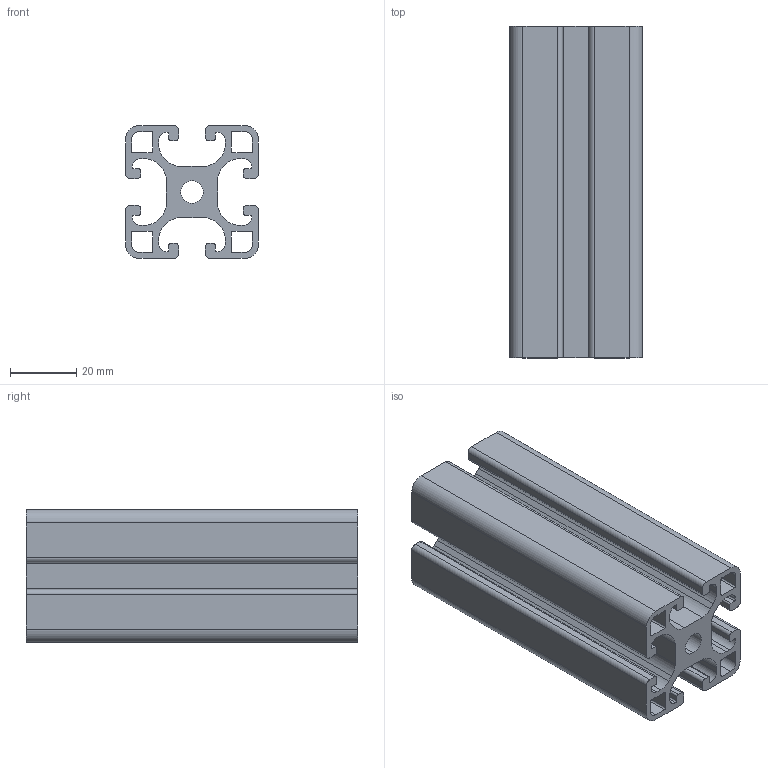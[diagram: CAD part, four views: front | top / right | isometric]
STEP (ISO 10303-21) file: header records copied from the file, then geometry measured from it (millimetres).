
FILE_DESCRIPTION (( 'STEP AP203' ), '1' );
FILE_NAME ('0108P4040L.STEP', '2024-02-29T09:23:00', ( 'Windows-Benutzer' ), ( '' ), 'SwSTEP 2.0', 'SolidWorks 2023', '' );
FILE_SCHEMA (( 'CONFIG_CONTROL_DESIGN' ));
Length unit declared in the file: millimetre
Products named in the file (1): 0108P4040L
Bounding box: 40 x 100 x 40 mm (x, y, z)
Volume: 65088.8 mm3; surface area: 47388.1 mm2
Topology: 1 solids, 1 shells, 148 faces, 438 edges, 292 vertices
Faces by surface type: cylinder 78, plane 70
Entity records: 5095 total; most frequent: DIRECTION 892, CARTESIAN_POINT 879, ORIENTED_EDGE 876, EDGE_CURVE 438, AXIS2_PLACEMENT_3D 305, VERTEX_POINT 292, VECTOR 282, LINE 282
